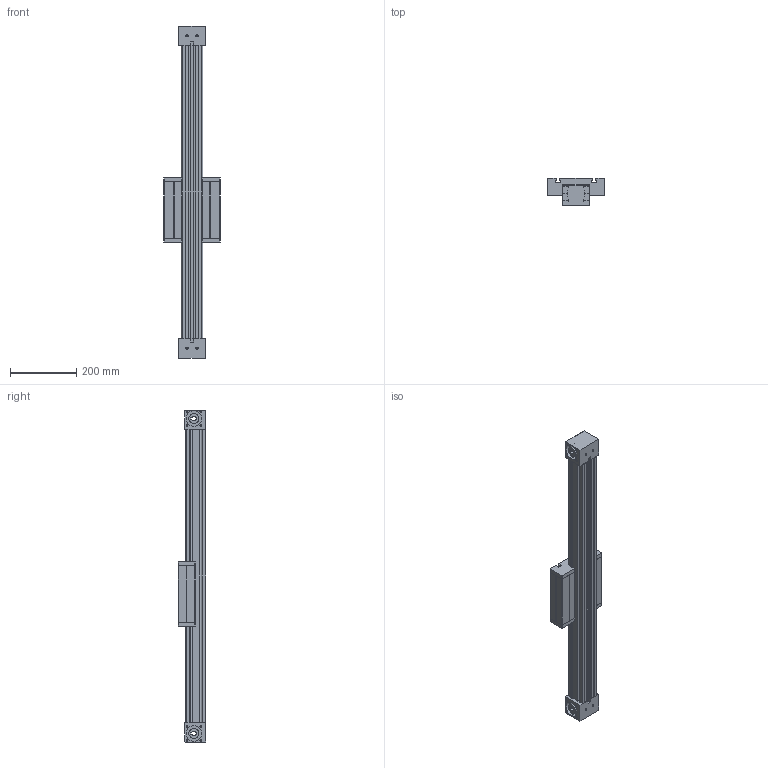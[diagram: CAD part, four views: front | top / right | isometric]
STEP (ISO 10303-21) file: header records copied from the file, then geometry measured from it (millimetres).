
FILE_DESCRIPTION (( 'STEP AP214' ), '1' );
FILE_NAME ('MLZ-60S.STEP', '2016-01-14T10:49:06', ( 'admin' ), ( '' ), 'SwSTEP 2.0', 'SolidWorks 2015', '' );
FILE_SCHEMA (( 'AUTOMOTIVE_DESIGN' ));
Length unit declared in the file: millimetre
Products named in the file (6): Abdeckkappe EL 60 S^MLZ 60S S0 A0; Führungsschlitten EL 60 S^MLZ 60S S0 A0; Zahnriemenumlenkung QLZ 60^MLZ 60S S0 A0_Kupplungsklaue Pos. 1; Zahnriemenumlenkung QLZ 60^MLZ 60S S0 A0_Kupplungsklaue Pos. 2; Führungsprofil EL 60^MLZ 60S S0 A0; MLZ-60S
Assembly tree (6 placements, depth 2):
  MLZ-60S
    Führungsprofil EL 60^MLZ 60S S0 A0
    Zahnriemenumlenkung QLZ 60^MLZ 60S S0 A0_Kupplungsklaue Pos. 2
    Zahnriemenumlenkung QLZ 60^MLZ 60S S0 A0_Kupplungsklaue Pos. 1
    Führungsschlitten EL 60 S^MLZ 60S S0 A0
    Abdeckkappe EL 60 S^MLZ 60S S0 A0  x2
Bounding box: 170 x 83 x 1000 mm (x, y, z)
Volume: 4725574.2 mm3; surface area: 576221.8 mm2
Topology: 8 solids, 8 shells, 411 faces, 1127 edges, 718 vertices
Faces by surface type: plane 188, cylinder 183, cone 40
Entity records: 11494 total; most frequent: DIRECTION 1952, CARTESIAN_POINT 1869, ORIENTED_EDGE 1820, EDGE_CURVE 910, AXIS2_PLACEMENT_3D 683, VERTEX_POINT 600, VECTOR 586, LINE 586
